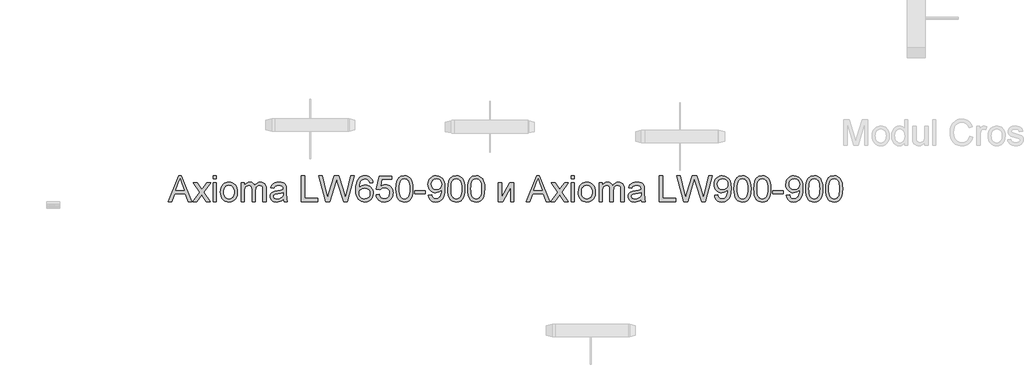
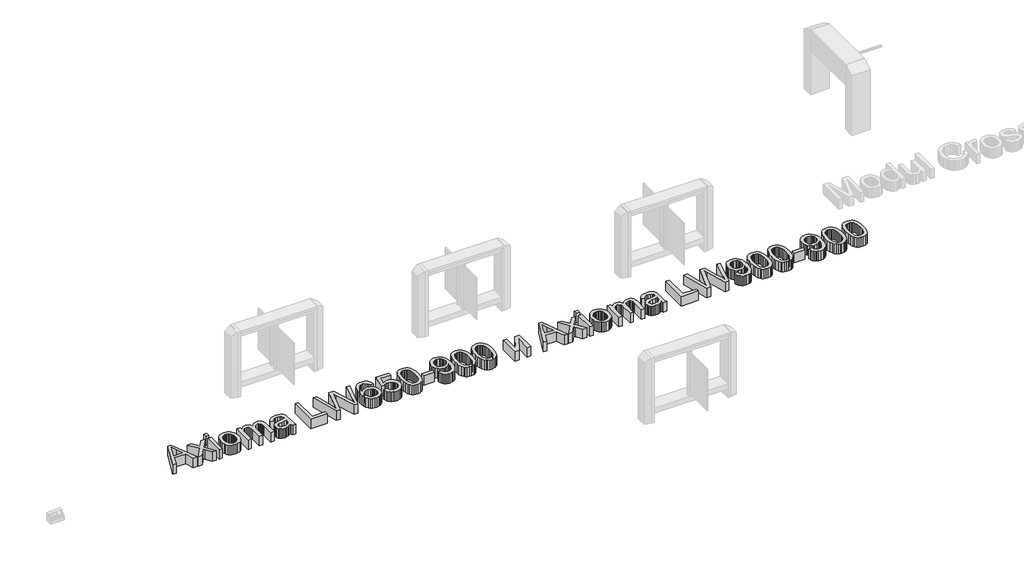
# One storey, part 4 of 6: 1 proxy.
"""IFC4 building model written with IfcOpenShell, lengths in millimetres."""

import ifcopenshell
import ifcopenshell.guid

model = None  # the IFC model being written
_history = None  # IfcOwnerHistory: only IFC2X3 demands one
_inside = {}  # id of a spatial element -> (the spatial element, [elements in it])
_under = {}  # id of a project, library or spatial element -> (it, [spatial elements below it])
_declared = {}  # id of a project -> (the project, [libraries it declares])
_typed = {}  # id of a type object -> (the type object, [elements of that type])
_made_of = {}  # id of a material, layer set ... -> (it, [elements and type objects made of it])


def new_model(schema):
    """Start an empty IFC model of exactly this schema.

    Asked for "IFC4X3", IfcOpenShell would pick the latest addendum, in which some entities
    have other attributes; the version numbers below select the first issue.
    IFC2X3 requires an IfcOwnerHistory on every rooted entity: one is made here for all.
    """
    global model, _history
    if schema == "IFC4X3":
        model = ifcopenshell.file(schema_version=(4, 3, 0, 0))
    else:
        model = ifcopenshell.file(schema=schema)
    _inside.clear()
    _under.clear()
    _declared.clear()
    _typed.clear()
    _made_of.clear()
    _history = None
    if model.schema == "IFC2X3":
        org = make("IfcOrganization", Name="unknown")
        user = make(
            "IfcPersonAndOrganization",
            ThePerson=make("IfcPerson", FamilyName="unknown"),
            TheOrganization=org,
        )
        app = make(
            "IfcApplication",
            ApplicationDeveloper=org,
            Version="unknown",
            ApplicationFullName="unknown",
            ApplicationIdentifier="unknown",
        )
        _history = make(
            "IfcOwnerHistory",
            OwningUser=user,
            OwningApplication=app,
            ChangeAction="ADDED",
            CreationDate=0,
        )
    return model


def make(cls, **values):
    """One entity of the class cls with the attributes given. An attribute that is None is left unset."""
    return model.create_entity(
        cls, **{name: value for name, value in values.items() if value is not None}
    )


def rooted(cls, **values):
    """An entity with a GlobalId (a new one), such as an element, a storey or a relation."""
    return make(cls, GlobalId=ifcopenshell.guid.new(), OwnerHistory=_history, **values)


def si_unit(unit_type, name, prefix=None):
    """IfcSIUnit, for example si_unit("LENGTHUNIT", "METRE", prefix="MILLI")."""
    return make("IfcSIUnit", UnitType=unit_type, Prefix=prefix, Name=name)


def assignment(units):
    """IfcUnitAssignment: the units of a project."""
    return None if units is None else make("IfcUnitAssignment", Units=units)


def point(xyz):
    """IfcCartesianPoint."""
    return None if xyz is None else make("IfcCartesianPoint", Coordinates=xyz)


def direction(xyz):
    """IfcDirection."""
    return None if xyz is None else make("IfcDirection", DirectionRatios=xyz)


def frame(location, z_axis=None, x_axis=None):
    """IfcAxis2Placement3D, a coordinate frame: its origin and axes. An axis left out is left unset."""
    return make(
        "IfcAxis2Placement3D",
        Location=point(location),
        Axis=direction(z_axis),
        RefDirection=direction(x_axis),
    )


def origin():
    """The frame at (0, 0, 0) with its axes left unset."""
    return frame((0.0, 0.0, 0.0))


def origin_with_axes():
    """The frame at (0, 0, 0) with the z axis (0, 0, 1) and the x axis (1, 0, 0) written out."""
    return frame((0.0, 0.0, 0.0), z_axis=(0.0, 0.0, 1.0), x_axis=(1.0, 0.0, 0.0))


def place(relative_to, where):
    """IfcLocalPlacement: puts the frame where relative to a parent placement (None: the world)."""
    return make(
        "IfcLocalPlacement", PlacementRelTo=relative_to, RelativePlacement=where
    )


def context(
    kind, dimensions, precision=None, world=None, true_north=None, identifier=None
):
    """IfcGeometricRepresentationContext, for example the 3D "Model" context."""
    return make(
        "IfcGeometricRepresentationContext",
        ContextIdentifier=identifier,
        ContextType=kind,
        CoordinateSpaceDimension=dimensions,
        Precision=precision,
        WorldCoordinateSystem=world,
        TrueNorth=true_north,
    )


def project(units=None, contexts=None):
    """IfcProject with its units and contexts."""
    return rooted(
        "IfcProject",
        Name="project",
        RepresentationContexts=contexts,
        UnitsInContext=assignment(units),
    )


def spatial(cls, under=None, at=None, **own):
    """A site, building, storey or space (cls), placed at a placement, below another one or the project."""
    s = rooted(cls, ObjectPlacement=at, **own)
    if under is not None:
        _under.setdefault(under.id(), (under, []))[1].append(s)
    return s


def polyline(points):
    """IfcPolyline through the points."""
    return make("IfcPolyline", Points=[point(p) for p in points])


def outline(outer, holes=None, kind="AREA"):
    """IfcArbitraryClosedProfileDef: a profile drawn as a closed curve; with holes, ...WithVoids."""
    if holes is None:
        return make("IfcArbitraryClosedProfileDef", ProfileType=kind, OuterCurve=outer)
    return make(
        "IfcArbitraryProfileDefWithVoids",
        ProfileType=kind,
        OuterCurve=outer,
        InnerCurves=holes,
    )


def extrude(swept, where, along, depth):
    """IfcExtrudedAreaSolid: the profile swept, set in the frame where, extruded along a direction by depth."""
    return make(
        "IfcExtrudedAreaSolid",
        SweptArea=swept,
        Position=where,
        ExtrudedDirection=direction(along),
        Depth=depth,
    )


def shape(context_of_items, identifier, shape_type, items):
    """IfcShapeRepresentation: the items that make up one representation, for example the "Body"."""
    return make(
        "IfcShapeRepresentation",
        ContextOfItems=context_of_items,
        RepresentationIdentifier=identifier,
        RepresentationType=shape_type,
        Items=items,
    )


def made_of(thing, what):
    """Note that an element or type object is made of a material, layer set ...; save() writes the relation."""
    if what is not None:
        _made_of.setdefault(what.id(), (what, []))[1].append(thing)
    return thing


def element(
    cls,
    number,
    at=None,
    inside=None,
    cuts=None,
    type_object=None,
    material=None,
    context=None,
    identifier="Body",
    shape_type=None,
    held_by="IfcProductDefinitionShape",
    body=None,
    shapes=None,
    **own,
):
    """One element of the class cls, such as IfcWall. Its Tag is "e" and its number.

    at: its placement. inside: the storey or other place that contains it. cuts: it is an
    opening in that element (IfcRelVoidsElement). A single representation is given by context,
    identifier, shape_type and body (its items); several are given by shapes. held_by: the class
    of the entity that holds the representations. save() writes the other relations.
    """
    e = rooted(cls, Tag="e%d" % number, ObjectPlacement=at, **own)
    if body is not None:
        shapes = [shape(context, identifier, shape_type, body)]
    if shapes is not None:
        e.Representation = make(held_by, Representations=shapes)
    if inside is not None:
        _inside.setdefault(inside.id(), (inside, []))[1].append(e)
    if cuts is not None:
        rooted(
            "IfcRelVoidsElement", RelatingBuildingElement=cuts, RelatedOpeningElement=e
        )
    if type_object is not None:
        _typed.setdefault(type_object.id(), (type_object, []))[1].append(e)
    return made_of(e, material)


def aggregate(whole, parts):
    """IfcRelAggregates: a whole, such as a stair, and the parts it consists of."""
    return rooted("IfcRelAggregates", RelatingObject=whole, RelatedObjects=parts)


def save(model, path):
    """Write the relations noted so far, then the file.

    IfcRelAggregates (storeys below a building ...), IfcRelContainedInSpatialStructure (elements
    in a storey), IfcRelDefinesByType, IfcRelAssociatesMaterial and IfcRelDeclares: one each for
    every whole, place, type object, material and project.
    """
    for whole, parts in _under.values():
        aggregate(whole, parts)
    for where, things in _inside.values():
        rooted(
            "IfcRelContainedInSpatialStructure",
            RelatedElements=things,
            RelatingStructure=where,
        )
    for kind, things in _typed.values():
        rooted("IfcRelDefinesByType", RelatedObjects=things, RelatingType=kind)
    for what, things in _made_of.values():
        rooted("IfcRelAssociatesMaterial", RelatedObjects=things, RelatingMaterial=what)
    for by, libraries in _declared.values():
        rooted("IfcRelDeclares", RelatingContext=by, RelatedDefinitions=libraries)
    model.write(path)


model = new_model("IFC4")

# Units and contexts
model_context = context("Model", 3, world=origin())
ifc_project = project(units=[si_unit("LENGTHUNIT", "METRE", prefix="MILLI")], contexts=[model_context])

# Site, building, storey
site = spatial("IfcSite", under=ifc_project)
building = spatial("IfcBuilding", under=site)
storey = spatial("IfcBuildingStorey", under=building, Name="Уровень 1", Elevation=0.0)

# Proxy
placement = place(None, origin())
element("IfcBuildingElementProxy", 1, Name="600 мм Arial", ObjectType="600 мм Arial", at=placement, inside=storey, context=model_context, shape_type="SweptSolid", body=[
    extrude(outline(polyline([(-6497.4571493, 3040.7914586), (-6337.0605994, 3442.6166992), (-6294.2881861, 3442.6166992), (-6133.8916362, 3040.7914586), (-6186.9647453, 3040.7914586), (-6232.9745202, 3166.3618463), (-6398.4723671, 3166.3618463), (-6444.3840401, 3040.7914586), (-6497.4571493, 3040.7914586)]), holes=[polyline([(-6380.0292164, 3216.5900013), (-6251.319569, 3216.5900013), (-6287.5191573, 3315.3785798), (-6315.6743927, 3392.3885441), (-6340.6903684, 3324.0115439), (-6380.0292164, 3216.5900013)])]), origin_with_axes(), (0.0, 0.0, 1.0), 150.0),
    extrude(outline(polyline([(-6117.9010321, 3040.7914586), (-6010.5775914, 3189.121479), (-6111.6225127, 3335.8818696), (-6051.1917636, 3335.8818696), (-6002.4351365, 3265.2485266), (-5979.6755038, 3231.8938923), (-5959.9570288, 3259.1662109), (-5904.431373, 3335.8818696), (-5844.000624, 3335.8818696), (-5950.1468423, 3189.121479), (-5847.9246986, 3040.7914586), (-5908.3554476, 3040.7914586), (-5969.8653172, 3129.9660542), (-5981.1470318, 3146.2509638), (-6057.470283, 3040.7914586), (-6117.9010321, 3040.7914586)])), origin_with_axes(), (0.0, 0.0, 1.0), 150.0),
    extrude(outline(polyline([(-5803.9750629, 3392.3885441), (-5803.9750629, 3442.6166992), (-5753.7469078, 3442.6166992), (-5753.7469078, 3392.3885441), (-5803.9750629, 3392.3885441)])), origin_with_axes(), (0.0, 0.0, 1.0), 150.0),
    extrude(outline(polyline([(-5803.9750629, 3040.7914586), (-5803.9750629, 3335.8818696), (-5753.7469078, 3335.8818696), (-5753.7469078, 3040.7914586), (-5803.9750629, 3040.7914586)])), origin_with_axes(), (0.0, 0.0, 1.0), 150.0),
    extrude(outline(polyline([(-5690.961714, 3188.3366641), (-5688.2455186, 3226.553472), (-5680.0969324, 3259.485042), (-5666.5159554, 3287.1313739), (-5647.5025876, 3309.4924678), (-5628.3604611, 3323.7846834), (-5607.2317719, 3333.9934087), (-5584.1165198, 3340.1186439), (-5559.014705, 3342.160389), (-5531.3039937, 3339.6741199), (-5506.2481642, 3332.2153124), (-5483.8472164, 3319.7839667), (-5464.1011503, 3302.3800826), (-5447.9848532, 3280.5922714), (-5436.4732124, 3255.0091444), (-5429.566228, 3225.6307014), (-5427.2638998, 3192.4569424), (-5431.3351272, 3141.7137526), (-5443.5488095, 3103.0861431), (-5463.5493273, 3074.1583555), (-5490.9810614, 3052.5146315), (-5523.5631434, 3039.0133623), (-5559.014705, 3034.5129392), (-5587.1300865, 3036.9900113), (-5612.418908, 3044.4212276), (-5634.8811695, 3056.8065881), (-5654.516871, 3074.1460928), (-5670.4614898, 3096.1454361), (-5681.8505032, 3122.5103124), (-5688.6839113, 3153.2407218), (-5690.961714, 3188.3366641)]), holes=[polyline([(-5640.7335589, 3188.434766), (-5639.280425, 3164.0717808), (-5634.9210234, 3142.9768141), (-5627.655354, 3125.1498657), (-5617.4834168, 3110.5909358), (-5605.110319, 3099.2816301), (-5591.2411678, 3091.2035546), (-5575.8759631, 3086.3567094), (-5559.014705, 3084.7410943), (-5542.239286, 3086.3659064), (-5526.935395, 3091.2403428), (-5513.103032, 3099.3644036), (-5500.742197, 3110.7380886), (-5490.5702598, 3125.4411057), (-5483.3045904, 3143.5531626), (-5478.9451888, 3165.0742593), (-5477.4920549, 3190.0043958), (-5478.9543858, 3213.5948287), (-5483.3413786, 3234.1379725), (-5490.6530333, 3251.6338271), (-5500.8893498, 3266.0823924), (-5513.2961701, 3277.3916981), (-5527.119336, 3285.4697736), (-5542.3588477, 3290.3166188), (-5559.014705, 3291.9322339), (-5575.8759631, 3290.3227502), (-5591.2411678, 3285.494299), (-5605.110319, 3277.4468804), (-5617.4834168, 3266.1804943), (-5627.655354, 3251.6644839), (-5634.9210234, 3233.8681924), (-5639.280425, 3212.7916197), (-5640.7335589, 3188.434766)])]), origin_with_axes(), (0.0, 0.0, 1.0), 150.0),
    extrude(outline(polyline([(-5370.7572254, 3040.7914586), (-5370.7572254, 3335.8818696), (-5320.5290703, 3335.8818696), (-5320.5290703, 3287.3214463), (-5305.421383, 3309.6273579), (-5285.9972137, 3327.1017527), (-5262.9187498, 3338.3957299), (-5236.8481791, 3342.160389), (-5208.913673, 3338.3221535), (-5186.5219222, 3326.8074471), (-5169.7955541, 3308.3765591), (-5158.8571961, 3283.7897791), (-5140.5489355, 3309.3269209), (-5119.6655009, 3327.5677365), (-5096.2068924, 3338.5122259), (-5070.1731098, 3342.160389), (-5050.0652931, 3340.6428758), (-5032.4161544, 3336.0903361), (-5017.2256937, 3328.5027699), (-5004.493911, 3317.8801773), (-4994.4292727, 3304.0999309), (-4987.2402454, 3287.0394034), (-4982.926829, 3266.6985948), (-4981.4890235, 3243.077505), (-4981.4890235, 3040.7914586), (-5031.7171786, 3040.7914586), (-5031.7171786, 3221.4950946), (-5032.8821383, 3246.5478585), (-5036.3770172, 3263.433642), (-5042.9253167, 3274.9973994), (-5053.2505381, 3284.0840847), (-5066.5310781, 3289.9701966), (-5081.9453337, 3291.9322339), (-5109.1563386, 3286.9045133), (-5131.3396229, 3271.8213515), (-5139.9449959, 3260.2514628), (-5146.0916909, 3245.6526789), (-5151.0090469, 3207.368426), (-5151.0090469, 3040.7914586), (-5201.237202, 3040.7914586), (-5201.237202, 3227.0869009), (-5204.1434697, 3255.487391), (-5212.862273, 3275.7454262), (-5228.2029522, 3287.885532), (-5250.9748477, 3291.9322339), (-5270.3254407, 3289.2344326), (-5288.1554547, 3281.1410287), (-5302.8707345, 3267.848226), (-5312.8771248, 3249.5522281), (-5318.6160839, 3224.1683704), (-5320.5290703, 3189.6119883), (-5320.5290703, 3040.7914586), (-5370.7572254, 3040.7914586)])), origin_with_axes(), (0.0, 0.0, 1.0), 150.0),
    extrude(outline(polyline([(-4717.7912094, 3078.4625749), (-4741.7893782, 3057.8857086), (-4766.4987856, 3044.4212276), (-4792.4835171, 3036.9900113), (-4820.3076587, 3034.5129392), (-4842.6718183, 3036.0028613), (-4862.2829944, 3040.4726275), (-4879.1411868, 3047.9222379), (-4893.2463956, 3058.3516925), (-4904.384023, 3071.0988036), (-4912.3394712, 3085.5013837), (-4917.1127401, 3101.5594328), (-4918.7038297, 3119.2729509), (-4916.300334, 3140.0950718), (-4909.0898469, 3159.0042063), (-4897.9675479, 3175.1910141), (-4883.8286165, 3187.8461548), (-4867.2126131, 3197.4110866), (-4848.6590978, 3204.3272682), (-4805.1999714, 3211.8811118), (-4753.8436449, 3219.8273629), (-4718.085515, 3229.1470401), (-4717.7912094, 3240.3306527), (-4721.2493001, 3262.746929), (-4731.6235724, 3277.4131579), (-4754.8246636, 3288.3024649), (-4787.1492282, 3291.9322339), (-4817.0702972, 3289.5164755), (-4837.9659945, 3282.2692002), (-4852.2152904, 3268.8660328), (-4862.1971552, 3247.9825982), (-4912.4253103, 3254.2611176), (-4903.706507, 3281.7296399), (-4890.6957471, 3303.3120503), (-4872.17902, 3319.8176892), (-4846.9423152, 3332.0558969), (-4816.0770158, 3339.634266), (-4780.6745051, 3342.160389), (-4746.7189969, 3339.9285716), (-4719.8022976, 3333.2331193), (-4699.5074742, 3323.1654153), (-4685.4175938, 3310.816843), (-4676.0733911, 3295.5497402), (-4670.0156009, 3276.7264448), (-4667.5630543, 3232.7768091), (-4667.5630543, 3170.2859209), (-4665.0124058, 3083.0243116), (-4655.0060155, 3040.7914586), (-4705.2341706, 3040.7914586), (-4713.2785236, 3058.2535906), (-4717.7912094, 3078.4625749)]), holes=[polyline([(-4717.7912094, 3178.918885), (-4751.5382511, 3170.555701), (-4798.8233502, 3163.5168922), (-4842.0372219, 3155.3744373), (-4853.2821482, 3149.8071565), (-4861.608544, 3142.1306855), (-4866.758892, 3132.9336356), (-4868.4756746, 3122.804618), (-4864.735541, 3107.868609), (-4853.5151401, 3095.6304013), (-4835.0597267, 3087.463421), (-4809.6145554, 3084.7410943), (-4782.6365424, 3087.7454639), (-4758.7977891, 3096.7585728), (-4739.4717216, 3110.0391128), (-4726.0317661, 3125.8457759), (-4720.0720778, 3142.1306855), (-4718.085515, 3164.6941145), (-4717.7912094, 3178.918885)])]), origin_with_axes(), (0.0, 0.0, 1.0), 150.0),
    extrude(outline(polyline([(-4435.2578371, 3040.7914586), (-4435.2578371, 3442.6166992), (-4385.029682, 3442.6166992), (-4385.029682, 3091.0196136), (-4184.1170617, 3091.0196136), (-4184.1170617, 3040.7914586), (-4435.2578371, 3040.7914586)])), origin_with_axes(), (0.0, 0.0, 1.0), 150.0),
    extrude(outline(polyline([(-4055.7017199, 3040.7914586), (-4165.2815036, 3442.6166992), (-4113.4837186, 3442.6166992), (-4049.9137099, 3178.5264776), (-4030.2933368, 3097.0038274), (-4009.2995376, 3169.1086985), (-3929.6408229, 3442.6166992), (-3854.9853034, 3442.6166992), (-3797.1052028, 3244.3528292), (-3772.3099563, 3170.7764302), (-3754.0384839, 3097.0038274), (-3735.006722, 3176.1720328), (-3670.848102, 3442.6166992), (-3619.0503171, 3442.6166992), (-3728.7282026, 3040.7914586), (-3782.389923, 3040.7914586), (-3878.7259548, 3350.7933532), (-3892.1659103, 3394.0562758), (-3907.2735976, 3341.9641853), (-3995.0747671, 3040.7914586), (-4055.7017199, 3040.7914586)])), origin_with_axes(), (0.0, 0.0, 1.0), 150.0),
    extrude(outline(polyline([(-3330.2384254, 3335.8818696), (-3380.4665805, 3329.6033502), (-3388.5599844, 3354.4966986), (-3399.4983424, 3371.4928468), (-3422.2825006, 3387.1646198), (-3449.8245993, 3392.3885441), (-3473.1728433, 3389.3473863), (-3495.1476612, 3380.2239128), (-3514.0200075, 3361.0082099), (-3529.4342631, 3334.5574944), (-3539.8453236, 3297.1438955), (-3543.7080845, 3245.0395423), (-3523.5604139, 3268.5472018), (-3499.4150923, 3285.1141543), (-3472.6210203, 3294.9366036), (-3444.5270986, 3298.2107533), (-3420.3940397, 3295.9728045), (-3398.1249163, 3289.2589581), (-3377.7197283, 3278.0692141), (-3359.1784757, 3262.4035725), (-3343.7703515, 3243.1940009), (-3332.7645485, 3221.3724673), (-3326.1610667, 3196.9389714), (-3323.9599061, 3169.8935134), (-3328.1047099, 3133.926917), (-3340.5391213, 3100.5845455), (-3360.2330708, 3072.3066828), (-3386.1564887, 3051.5336128), (-3417.1321527, 3038.7681076), (-3451.9828404, 3034.5129392), (-3481.9253691, 3037.3333678), (-3508.9677614, 3045.7946537), (-3533.1100174, 3059.8967968), (-3554.3521369, 3079.6397973), (-3571.6701818, 3105.8575208), (-3584.0402139, 3139.3838333), (-3591.4622332, 3180.2187347), (-3593.9362396, 3228.3622252), (-3591.1893874, 3282.3366452), (-3582.9488307, 3328.4016024), (-3569.2145695, 3366.5570967), (-3549.9866039, 3396.803128), (-3529.1460889, 3416.8465654), (-3504.9823732, 3431.1633064), (-3477.4954568, 3439.753351), (-3446.6853397, 3442.6166992), (-3423.5516935, 3440.8447342), (-3402.6130766, 3435.5288394), (-3383.869489, 3426.6690147), (-3367.3209306, 3414.2652601), (-3353.4149911, 3398.7345085), (-3342.5992605, 3380.4936929), (-3334.8737386, 3359.5428133), (-3330.2384254, 3335.8818696)]), holes=[polyline([(-3543.7080845, 3170.6783283), (-3540.8018168, 3148.4214676), (-3532.0830135, 3127.170151), (-3518.544956, 3108.8986786), (-3501.1809259, 3095.5813504), (-3480.2239149, 3087.4511583), (-3455.906915, 3084.7410943), (-3422.7607472, 3090.357426), (-3408.8456108, 3097.3778408), (-3396.7024392, 3107.2064214), (-3386.8523988, 3119.4446291), (-3379.8166557, 3133.6939251), (-3374.1880611, 3168.2257817), (-3379.7430793, 3201.3719495), (-3386.6868519, 3214.9927803), (-3396.4081336, 3226.6454425), (-3408.5880934, 3235.9804482), (-3422.9079, 3242.6483093), (-3457.9670542, 3247.9825982), (-3491.064171, 3242.6483093), (-3518.7411598, 3226.6454425), (-3529.6641894, 3215.1460645), (-3537.4663533, 3201.9850861), (-3542.1476517, 3187.1625074), (-3543.7080845, 3170.6783283)])]), origin_with_axes(), (0.0, 0.0, 1.0), 150.0),
    extrude(outline(polyline([(-3280.0102704, 3147.5262881), (-3229.7821153, 3153.8048075), (-3220.56054, 3123.6507466), (-3204.471834, 3102.0560735), (-3181.5895739, 3089.0698391), (-3151.9873361, 3084.7410943), (-3132.8574723, 3086.2463448), (-3115.9839515, 3090.7620962), (-3101.3667735, 3098.2883487), (-3089.0059385, 3108.8251022), (-3079.1773578, 3121.8511905), (-3072.1569431, 3136.8454475), (-3066.5406113, 3172.7384675), (-3071.8013238, 3206.5345601), (-3078.3772145, 3220.4527623), (-3087.5834614, 3232.3844017), (-3099.4507215, 3241.9554649), (-3114.0096514, 3248.7919386), (-3151.2025211, 3254.2611176), (-3175.5685719, 3252.0783511), (-3195.2993096, 3245.5300516), (-3211.0569217, 3235.4991359), (-3223.5035959, 3222.8685207), (-3273.731751, 3229.1470401), (-3229.7821153, 3436.3381798), (-3035.1480144, 3436.3381798), (-3035.1480144, 3386.1100247), (-3189.167943, 3386.1100247), (-3210.6522515, 3275.4511206), (-3192.9264707, 3288.1553121), (-3174.7714943, 3297.2297347), (-3156.1873222, 3302.6743882), (-3137.1739544, 3304.4892727), (-3112.7128674, 3302.2390612), (-3090.2444745, 3295.4884266), (-3069.7687758, 3284.2373689), (-3051.2857712, 3268.4858881), (-3035.9849459, 3249.1966088), (-3025.055785, 3227.3321556), (-3018.4982884, 3202.8925284), (-3016.3124562, 3175.8777272), (-3018.2806249, 3149.8562074), (-3024.1851309, 3125.6495721), (-3034.0259743, 3103.2578213), (-3047.803155, 3082.6809551), (-3068.6743269, 3061.6074481), (-3093.028115, 3046.5549432), (-3120.8645193, 3037.5234402), (-3152.1835398, 3034.5129392), (-3178.103892, 3036.4473853), (-3201.5165153, 3042.2507238), (-3222.4214097, 3051.9229546), (-3240.8185752, 3065.4640777), (-3256.1255318, 3082.1996428), (-3267.7597999, 3101.4551996), (-3275.7213794, 3123.230748), (-3280.0102704, 3147.5262881)])), origin_with_axes(), (0.0, 0.0, 1.0), 150.0),
    extrude(outline(polyline([(-2972.3628205, 3238.4667173), (-2968.6717379, 3302.7847528), (-2957.5984898, 3354.0797657), (-2939.253441, 3393.1365708), (-2927.395378, 3408.3699511), (-2913.746956, 3420.7399832), (-2898.2621897, 3430.3110464), (-2880.8950938, 3437.1475202), (-2840.5139135, 3442.6166992), (-2809.5627749, 3439.3793376), (-2781.848998, 3429.6672529), (-2758.6724323, 3413.8605899), (-2741.3329276, 3392.3394932), (-2728.2363285, 3365.2879038), (-2717.7884799, 3332.8897627), (-2710.9458748, 3291.7482929), (-2708.6650064, 3238.4667173), (-2712.3193009, 3174.5165638), (-2723.2821843, 3123.3441783), (-2741.5168686, 3084.2505849), (-2753.3473404, 3068.9712194), (-2766.9865654, 3056.536808), (-2782.4897258, 3046.9013654), (-2799.9120039, 3040.0189064), (-2840.5139135, 3034.5129392), (-2868.1786395, 3036.9041721), (-2892.7041059, 3044.0778711), (-2914.0903125, 3056.0340359), (-2932.3372595, 3072.7726667), (-2949.8484424, 3103.0309608), (-2962.3564303, 3140.7327339), (-2969.861223, 3185.8779861), (-2972.3628205, 3238.4667173)]), holes=[polyline([(-2922.1346655, 3238.5648192), (-2920.6631375, 3194.900292), (-2916.2485535, 3159.5560293), (-2908.8909136, 3132.5320311), (-2898.5902178, 3113.8282973), (-2886.1312809, 3101.102646), (-2872.2989179, 3092.012895), (-2857.0931287, 3086.5590444), (-2840.5139135, 3084.7410943), (-2823.9346982, 3086.5651758), (-2808.7289091, 3092.0374205), (-2794.8965461, 3101.1578283), (-2782.4376092, 3113.9263992), (-2772.1369133, 3132.6607898), (-2764.7792734, 3159.6786567), (-2760.3646895, 3194.9799998), (-2758.8931615, 3238.5648192), (-2760.3156385, 3281.0735837), (-2764.5830697, 3315.7955127), (-2771.6954549, 3342.7306061), (-2781.6527942, 3361.878864), (-2793.9032647, 3375.226849), (-2807.8950432, 3384.7611241), (-2823.6281299, 3390.4816891), (-2841.1025247, 3392.3885441), (-2857.5959008, 3390.7085496), (-2872.5441725, 3385.6685663), (-2885.9473399, 3377.2685941), (-2897.8054029, 3365.508633), (-2908.4494552, 3344.6619866), (-2916.0523498, 3316.5558021), (-2920.6140866, 3281.1900797), (-2922.1346655, 3238.5648192)])]), origin_with_axes(), (0.0, 0.0, 1.0), 150.0),
    extrude(outline(polyline([(-2677.2724095, 3160.0833269), (-2677.2724095, 3210.3114819), (-2520.3094249, 3210.3114819), (-2520.3094249, 3160.0833269), (-2677.2724095, 3160.0833269)])), origin_with_axes(), (0.0, 0.0, 1.0), 150.0),
    extrude(outline(polyline([(-2470.0812698, 3141.2477687), (-2419.8531147, 3147.5262881), (-2411.2692015, 3119.0154335), (-2397.2896857, 3099.6035269), (-2378.2579238, 3088.4567024), (-2354.5172724, 3084.7410943), (-2333.2169049, 3087.1323272), (-2313.8540492, 3094.3060261), (-2297.7653433, 3105.4773761), (-2286.287425, 3119.8615621), (-2269.8553626, 3163.5168922), (-2264.410709, 3191.9173822), (-2262.5958245, 3221.7894002), (-2262.8901301, 3231.5995867), (-2280.2909485, 3210.3605329), (-2303.062844, 3193.536063), (-2329.5626104, 3182.5731795), (-2358.1470414, 3178.918885), (-2382.0072545, 3181.1507025), (-2403.9483498, 3187.8461548), (-2423.9703274, 3199.005242), (-2442.0731872, 3214.627964), (-2457.0735756, 3233.8988492), (-2467.7881387, 3256.0024257), (-2474.2168766, 3280.9386937), (-2476.3597892, 3308.7076529), (-2474.1126433, 3337.4024485), (-2467.3712058, 3363.1541882), (-2456.1354765, 3385.9628719), (-2440.4054555, 3405.8284996), (-2421.2909202, 3421.9233369), (-2399.9016478, 3433.4196493), (-2376.2376385, 3440.3174367), (-2350.2988922, 3442.6166992), (-2312.8362423, 3437.3682494), (-2278.7335814, 3421.6229), (-2250.210464, 3396.1654659), (-2229.4864449, 3361.7807621), (-2216.8680925, 3314.2504083), (-2212.661975, 3249.3560244), (-2216.8558298, 3180.5498285), (-2229.437394, 3127.3663548), (-2250.2963031, 3087.4021074), (-2263.7883753, 3071.4758826), (-2279.3221926, 3058.2535906), (-2296.5850552, 3047.8670556), (-2315.2642635, 3040.448102), (-2356.8717171, 3034.5129392), (-2379.4290148, 3036.2634443), (-2399.8158087, 3041.5149598), (-2418.0320988, 3050.2674856), (-2434.0778852, 3062.5210217), (-2447.5484976, 3077.9444744), (-2458.0392658, 3096.2067498), (-2465.5501899, 3117.3078479), (-2470.0812698, 3141.2477687)]), holes=[polyline([(-2262.8901301, 3309.8848753), (-2268.3102582, 3343.9262226), (-2275.0854182, 3358.0038403), (-2284.5706424, 3370.1194206), (-2296.2999466, 3379.8621622), (-2309.8073472, 3386.8212632), (-2342.1564373, 3392.3885441), (-2359.7657222, 3390.889425), (-2375.7072753, 3386.3920676), (-2389.9810967, 3378.8964719), (-2402.5871864, 3368.402638), (-2412.8878823, 3355.5237025), (-2420.2455222, 3340.872802), (-2424.6601061, 3324.4499366), (-2426.1316341, 3306.2551063), (-2420.5643532, 3275.2181286), (-2413.6052522, 3262.1000698), (-2403.8625107, 3250.5822977), (-2391.7407989, 3241.2043725), (-2377.6447871, 3234.5058545), (-2343.5298635, 3229.1470401), (-2311.4382907, 3234.5058545), (-2285.6007119, 3250.5822977), (-2275.6648324, 3262.3269304), (-2268.5677756, 3276.1255709), (-2262.8901301, 3309.8848753)])]), origin_with_axes(), (0.0, 0.0, 1.0), 150.0),
    extrude(outline(polyline([(-2168.7123393, 3238.4667173), (-2165.0212567, 3302.7847528), (-2153.9480086, 3354.0797657), (-2135.6029598, 3393.1365708), (-2123.7448968, 3408.3699511), (-2110.0964748, 3420.7399832), (-2094.6117085, 3430.3110464), (-2077.2446126, 3437.1475202), (-2036.8634323, 3442.6166992), (-2005.9122937, 3439.3793376), (-1978.1985168, 3429.6672529), (-1955.0219511, 3413.8605899), (-1937.6824464, 3392.3394932), (-1924.5858473, 3365.2879038), (-1914.1379987, 3332.8897627), (-1907.2953936, 3291.7482929), (-1905.0145252, 3238.4667173), (-1908.6688197, 3174.5165638), (-1919.6317031, 3123.3441783), (-1937.8663874, 3084.2505849), (-1949.6968592, 3068.9712194), (-1963.3360842, 3056.536808), (-1978.8392446, 3046.9013654), (-1996.2615227, 3040.0189064), (-2036.8634323, 3034.5129392), (-2064.5281583, 3036.9041721), (-2089.0536247, 3044.0778711), (-2110.4398313, 3056.0340359), (-2128.6867783, 3072.7726667), (-2146.1979612, 3103.0309608), (-2158.7059491, 3140.7327339), (-2166.2107418, 3185.8779861), (-2168.7123393, 3238.4667173)]), holes=[polyline([(-2118.4841843, 3238.5648192), (-2117.0126563, 3194.900292), (-2112.5980723, 3159.5560293), (-2105.2404324, 3132.5320311), (-2094.9397366, 3113.8282973), (-2082.4807997, 3101.102646), (-2068.6484367, 3092.012895), (-2053.4426475, 3086.5590444), (-2036.8634323, 3084.7410943), (-2020.284217, 3086.5651758), (-2005.0784279, 3092.0374205), (-1991.2460649, 3101.1578283), (-1978.787128, 3113.9263992), (-1968.4864321, 3132.6607898), (-1961.1287922, 3159.6786567), (-1956.7142083, 3194.9799998), (-1955.2426803, 3238.5648192), (-1956.6651573, 3281.0735837), (-1960.9325885, 3315.7955127), (-1968.0449737, 3342.7306061), (-1978.002313, 3361.878864), (-1990.2527835, 3375.226849), (-2004.244562, 3384.7611241), (-2019.9776487, 3390.4816891), (-2037.4520435, 3392.3885441), (-2053.9454196, 3390.7085496), (-2068.8936913, 3385.6685663), (-2082.2968587, 3377.2685941), (-2094.1549217, 3365.508633), (-2104.798974, 3344.6619866), (-2112.4018686, 3316.5558021), (-2116.9636054, 3281.1900797), (-2118.4841843, 3238.5648192)])]), origin_with_axes(), (0.0, 0.0, 1.0), 150.0),
    extrude(outline(polyline([(-1861.0648895, 3238.4667173), (-1857.3738068, 3302.7847528), (-1846.3005588, 3354.0797657), (-1827.9555099, 3393.1365708), (-1816.097447, 3408.3699511), (-1802.4490249, 3420.7399832), (-1786.9642586, 3430.3110464), (-1769.5971628, 3437.1475202), (-1729.2159824, 3442.6166992), (-1698.2648439, 3439.3793376), (-1670.5510669, 3429.6672529), (-1647.3745012, 3413.8605899), (-1630.0349965, 3392.3394932), (-1616.9383975, 3365.2879038), (-1606.4905488, 3332.8897627), (-1599.6479437, 3291.7482929), (-1597.3670754, 3238.4667173), (-1601.0213699, 3174.5165638), (-1611.9842533, 3123.3441783), (-1630.2189375, 3084.2505849), (-1642.0494094, 3068.9712194), (-1655.6886343, 3056.536808), (-1671.1917947, 3046.9013654), (-1688.6140729, 3040.0189064), (-1729.2159824, 3034.5129392), (-1756.8807085, 3036.9041721), (-1781.4061748, 3044.0778711), (-1802.7923815, 3056.0340359), (-1821.0393284, 3072.7726667), (-1838.5505114, 3103.0309608), (-1851.0584992, 3140.7327339), (-1858.5632919, 3185.8779861), (-1861.0648895, 3238.4667173)]), holes=[polyline([(-1810.8367344, 3238.5648192), (-1809.3652065, 3194.900292), (-1804.9506225, 3159.5560293), (-1797.5929826, 3132.5320311), (-1787.2922867, 3113.8282973), (-1774.8333498, 3101.102646), (-1761.0009868, 3092.012895), (-1745.7951977, 3086.5590444), (-1729.2159824, 3084.7410943), (-1712.6367672, 3086.5651758), (-1697.4309781, 3092.0374205), (-1683.598615, 3101.1578283), (-1671.1396781, 3113.9263992), (-1660.8389823, 3132.6607898), (-1653.4813424, 3159.6786567), (-1649.0667584, 3194.9799998), (-1647.5952304, 3238.5648192), (-1649.0177075, 3281.0735837), (-1653.2851386, 3315.7955127), (-1660.3975239, 3342.7306061), (-1670.3548632, 3361.878864), (-1682.6053336, 3375.226849), (-1696.5971122, 3384.7611241), (-1712.3301989, 3390.4816891), (-1729.8045936, 3392.3885441), (-1746.2979697, 3390.7085496), (-1761.2462415, 3385.6685663), (-1774.6494088, 3377.2685941), (-1786.5074718, 3365.508633), (-1797.1515242, 3344.6619866), (-1804.7544188, 3316.5558021), (-1809.3161555, 3281.1900797), (-1810.8367344, 3238.5648192)])]), origin_with_axes(), (0.0, 0.0, 1.0), 150.0),
    extrude(outline(polyline([(-1383.8974163, 3335.8818696), (-1333.6692612, 3335.8818696), (-1333.6692612, 3110.8361904), (-1210.2571146, 3335.8818696), (-1145.3136797, 3335.8818696), (-1145.3136797, 3040.7914586), (-1195.5418348, 3040.7914586), (-1195.5418348, 3264.4637116), (-1318.1691665, 3040.7914586), (-1383.8974163, 3040.7914586), (-1383.8974163, 3335.8818696)])), origin_with_axes(), (0.0, 0.0, 1.0), 150.0),
    extrude(outline(polyline([(-953.5245329, 3040.7914586), (-793.127983, 3442.6166992), (-750.3555697, 3442.6166992), (-589.9590198, 3040.7914586), (-643.0321289, 3040.7914586), (-689.0419038, 3166.3618463), (-854.5397507, 3166.3618463), (-900.4514237, 3040.7914586), (-953.5245329, 3040.7914586)]), holes=[polyline([(-836.0966, 3216.5900013), (-707.3869526, 3216.5900013), (-743.586541, 3315.3785798), (-771.7417763, 3392.3885441), (-796.757752, 3324.0115439), (-836.0966, 3216.5900013)])]), origin_with_axes(), (0.0, 0.0, 1.0), 150.0),
    extrude(outline(polyline([(-573.9684157, 3040.7914586), (-466.644975, 3189.121479), (-567.6898963, 3335.8818696), (-507.2591473, 3335.8818696), (-458.5025202, 3265.2485266), (-435.7428874, 3231.8938923), (-416.0244125, 3259.1662109), (-360.4987567, 3335.8818696), (-300.0680076, 3335.8818696), (-406.2142259, 3189.121479), (-303.9920822, 3040.7914586), (-364.4228313, 3040.7914586), (-425.9327009, 3129.9660542), (-437.2144154, 3146.2509638), (-513.5376666, 3040.7914586), (-573.9684157, 3040.7914586)])), origin_with_axes(), (0.0, 0.0, 1.0), 150.0),
    extrude(outline(polyline([(-260.0424465, 3392.3885441), (-260.0424465, 3442.6166992), (-209.8142914, 3442.6166992), (-209.8142914, 3392.3885441), (-260.0424465, 3392.3885441)])), origin_with_axes(), (0.0, 0.0, 1.0), 150.0),
    extrude(outline(polyline([(-260.0424465, 3040.7914586), (-260.0424465, 3335.8818696), (-209.8142914, 3335.8818696), (-209.8142914, 3040.7914586), (-260.0424465, 3040.7914586)])), origin_with_axes(), (0.0, 0.0, 1.0), 150.0),
    extrude(outline(polyline([(-147.0290976, 3188.3366641), (-144.3129022, 3226.553472), (-136.164316, 3259.485042), (-122.583339, 3287.1313739), (-103.5699712, 3309.4924678), (-84.4278447, 3323.7846834), (-63.2991555, 3333.9934087), (-40.1839034, 3340.1186439), (-15.0820886, 3342.160389), (12.6286226, 3339.6741199), (37.6844522, 3332.2153124), (60.0854, 3319.7839667), (79.8314661, 3302.3800826), (95.9477632, 3280.5922714), (107.4594039, 3255.0091444), (114.3663884, 3225.6307014), (116.6687166, 3192.4569424), (112.5974891, 3141.7137526), (100.3838069, 3103.0861431), (80.3832891, 3074.1583555), (52.951555, 3052.5146315), (20.369473, 3039.0133623), (-15.0820886, 3034.5129392), (-43.1974701, 3036.9900113), (-68.4862916, 3044.4212276), (-90.9485531, 3056.8065881), (-110.5842546, 3074.1460928), (-126.5288734, 3096.1454361), (-137.9178868, 3122.5103124), (-144.7512949, 3153.2407218), (-147.0290976, 3188.3366641)]), holes=[polyline([(-96.8009425, 3188.434766), (-95.3478086, 3164.0717808), (-90.988407, 3142.9768141), (-83.7227376, 3125.1498657), (-73.5508004, 3110.5909358), (-61.1777026, 3099.2816301), (-47.3085514, 3091.2035546), (-31.9433468, 3086.3567094), (-15.0820886, 3084.7410943), (1.6933303, 3086.3659064), (16.9972213, 3091.2403428), (30.8295844, 3099.3644036), (43.1904194, 3110.7380886), (53.3623566, 3125.4411057), (60.628026, 3143.5531626), (64.9874276, 3165.0742593), (66.4405615, 3190.0043958), (64.9782306, 3213.5948287), (60.5912378, 3234.1379725), (53.2795831, 3251.6338271), (43.0432666, 3266.0823924), (30.6364463, 3277.3916981), (16.8132803, 3285.4697736), (1.5737687, 3290.3166188), (-15.0820886, 3291.9322339), (-31.9433468, 3290.3227502), (-47.3085514, 3285.494299), (-61.1777026, 3277.4468804), (-73.5508004, 3266.1804943), (-83.7227376, 3251.6644839), (-90.988407, 3233.8681924), (-95.3478086, 3212.7916197), (-96.8009425, 3188.434766)])]), origin_with_axes(), (0.0, 0.0, 1.0), 150.0),
    extrude(outline(polyline([(173.175391, 3040.7914586), (173.175391, 3335.8818696), (223.4035461, 3335.8818696), (223.4035461, 3287.3214463), (238.5112334, 3309.6273579), (257.9354027, 3327.1017527), (281.0138665, 3338.3957299), (307.0844373, 3342.160389), (335.0189434, 3338.3221535), (357.4106942, 3326.8074471), (374.1370623, 3308.3765591), (385.0754202, 3283.7897791), (403.3836809, 3309.3269209), (424.2671155, 3327.5677365), (447.725724, 3338.5122259), (473.7595065, 3342.160389), (493.8673233, 3340.6428758), (511.516462, 3336.0903361), (526.7069227, 3328.5027699), (539.4387054, 3317.8801773), (549.5033437, 3304.0999309), (556.692371, 3287.0394034), (561.0057874, 3266.6985948), (562.4435928, 3243.077505), (562.4435928, 3040.7914586), (512.2154378, 3040.7914586), (512.2154378, 3221.4950946), (511.0504781, 3246.5478585), (507.5555992, 3263.433642), (501.0072997, 3274.9973994), (490.6820783, 3284.0840847), (477.4015383, 3289.9701966), (461.9872827, 3291.9322339), (434.7762778, 3286.9045133), (412.5929935, 3271.8213515), (403.9876205, 3260.2514628), (397.8409255, 3245.6526789), (392.9235695, 3207.368426), (392.9235695, 3040.7914586), (342.6954144, 3040.7914586), (342.6954144, 3227.0869009), (339.7891466, 3255.487391), (331.0703433, 3275.7454262), (315.7296642, 3287.885532), (292.9577686, 3291.9322339), (273.6071757, 3289.2344326), (255.7771617, 3281.1410287), (241.0618819, 3267.848226), (231.0554916, 3249.5522281), (225.3165325, 3224.1683704), (223.4035461, 3189.6119883), (223.4035461, 3040.7914586), (173.175391, 3040.7914586)])), origin_with_axes(), (0.0, 0.0, 1.0), 150.0),
    extrude(outline(polyline([(826.141407, 3078.4625749), (802.1432382, 3057.8857086), (777.4338308, 3044.4212276), (751.4490992, 3036.9900113), (723.6249577, 3034.5129392), (701.260798, 3036.0028613), (681.649622, 3040.4726275), (664.7914296, 3047.9222379), (650.6862208, 3058.3516925), (639.5485934, 3071.0988036), (631.5931452, 3085.5013837), (626.8198763, 3101.5594328), (625.2287867, 3119.2729509), (627.6322824, 3140.0950718), (634.8427695, 3159.0042063), (645.9650685, 3175.1910141), (660.1039998, 3187.8461548), (676.7200033, 3197.4110866), (695.2735186, 3204.3272682), (738.7326449, 3211.8811118), (790.0889715, 3219.8273629), (825.8471014, 3229.1470401), (826.141407, 3240.3306527), (822.6833162, 3262.746929), (812.309044, 3277.4131579), (789.1079528, 3288.3024649), (756.7833882, 3291.9322339), (726.8623192, 3289.5164755), (705.9666219, 3282.2692002), (691.717326, 3268.8660328), (681.7354612, 3247.9825982), (631.5073061, 3254.2611176), (640.2261094, 3281.7296399), (653.2368693, 3303.3120503), (671.7535963, 3319.8176892), (696.9903012, 3332.0558969), (727.8556006, 3339.634266), (763.2581113, 3342.160389), (797.2136194, 3339.9285716), (824.1303188, 3333.2331193), (844.4251422, 3323.1654153), (858.5150226, 3310.816843), (867.8592252, 3295.5497402), (873.9170154, 3276.7264448), (876.3695621, 3232.7768091), (876.3695621, 3170.2859209), (878.9202106, 3083.0243116), (888.9266008, 3040.7914586), (838.6984458, 3040.7914586), (830.6540928, 3058.2535906), (826.141407, 3078.4625749)]), holes=[polyline([(826.141407, 3178.918885), (792.3943653, 3170.555701), (745.1092662, 3163.5168922), (701.8953945, 3155.3744373), (690.6504682, 3149.8071565), (682.3240723, 3142.1306855), (677.1737244, 3132.9336356), (675.4569418, 3122.804618), (679.1970754, 3107.868609), (690.4174762, 3095.6304013), (708.8728897, 3087.463421), (734.318061, 3084.7410943), (761.296074, 3087.7454639), (785.1348273, 3096.7585728), (804.4608947, 3110.0391128), (817.9008503, 3125.8457759), (823.8605386, 3142.1306855), (825.8471014, 3164.6941145), (826.141407, 3178.918885)])]), origin_with_axes(), (0.0, 0.0, 1.0), 150.0),
    extrude(outline(polyline([(1108.6747793, 3040.7914586), (1108.6747793, 3442.6166992), (1158.9029344, 3442.6166992), (1158.9029344, 3091.0196136), (1359.8155547, 3091.0196136), (1359.8155547, 3040.7914586), (1108.6747793, 3040.7914586)])), origin_with_axes(), (0.0, 0.0, 1.0), 150.0),
    extrude(outline(polyline([(1488.2308964, 3040.7914586), (1378.6511128, 3442.6166992), (1430.4488977, 3442.6166992), (1494.0189065, 3178.5264776), (1513.6392796, 3097.0038274), (1534.6330788, 3169.1086985), (1614.2917935, 3442.6166992), (1688.947313, 3442.6166992), (1746.8274136, 3244.3528292), (1771.6226601, 3170.7764302), (1789.8941325, 3097.0038274), (1808.9258944, 3176.1720328), (1873.0845143, 3442.6166992), (1924.8822993, 3442.6166992), (1815.2044138, 3040.7914586), (1761.5426934, 3040.7914586), (1665.2066616, 3350.7933532), (1651.766706, 3394.0562758), (1636.6590188, 3341.9641853), (1548.8578492, 3040.7914586), (1488.2308964, 3040.7914586)])), origin_with_axes(), (0.0, 0.0, 1.0), 150.0),
    extrude(outline(polyline([(1962.5534156, 3141.2477687), (2012.7815706, 3147.5262881), (2021.3654839, 3119.0154335), (2035.3449997, 3099.6035269), (2054.3767616, 3088.4567024), (2078.117413, 3084.7410943), (2099.4177805, 3087.1323272), (2118.7806362, 3094.3060261), (2134.8693421, 3105.4773761), (2146.3472603, 3119.8615621), (2162.7793228, 3163.5168922), (2168.2239763, 3191.9173822), (2170.0388608, 3221.7894002), (2169.7445552, 3231.5995867), (2152.3437369, 3210.3605329), (2129.5718414, 3193.536063), (2103.072075, 3182.5731795), (2074.487644, 3178.918885), (2050.6274309, 3181.1507025), (2028.6863356, 3187.8461548), (2008.664358, 3199.005242), (1990.5614981, 3214.627964), (1975.5611098, 3233.8988492), (1964.8465467, 3256.0024257), (1958.4178088, 3280.9386937), (1956.2748962, 3308.7076529), (1958.522042, 3337.4024485), (1965.2634796, 3363.1541882), (1976.4992089, 3385.9628719), (1992.2292298, 3405.8284996), (2011.3437652, 3421.9233369), (2032.7330375, 3433.4196493), (2056.3970468, 3440.3174367), (2082.3357932, 3442.6166992), (2119.798443, 3437.3682494), (2153.901104, 3421.6229), (2182.4242213, 3396.1654659), (2203.1482404, 3361.7807621), (2215.7665928, 3314.2504083), (2219.9727103, 3249.3560244), (2215.7788556, 3180.5498285), (2203.1972913, 3127.3663548), (2182.3383822, 3087.4021074), (2168.84631, 3071.4758826), (2153.3124928, 3058.2535906), (2136.0496302, 3047.8670556), (2117.3704219, 3040.448102), (2075.7629682, 3034.5129392), (2053.2056705, 3036.2634443), (2032.8188766, 3041.5149598), (2014.6025865, 3050.2674856), (1998.5568002, 3062.5210217), (1985.0861878, 3077.9444744), (1974.5954195, 3096.2067498), (1967.0844955, 3117.3078479), (1962.5534156, 3141.2477687)]), holes=[polyline([(2169.7445552, 3309.8848753), (2164.3244272, 3343.9262226), (2157.5492671, 3358.0038403), (2148.064043, 3370.1194206), (2136.3347387, 3379.8621622), (2122.8273381, 3386.8212632), (2090.478248, 3392.3885441), (2072.8689632, 3390.889425), (2056.9274101, 3386.3920676), (2042.6535886, 3378.8964719), (2030.0474989, 3368.402638), (2019.7468031, 3355.5237025), (2012.3891632, 3340.872802), (2007.9745792, 3324.4499366), (2006.5030512, 3306.2551063), (2012.0703321, 3275.2181286), (2019.0294332, 3262.1000698), (2028.7721747, 3250.5822977), (2040.8938864, 3241.2043725), (2054.9898982, 3234.5058545), (2089.1048219, 3229.1470401), (2121.1963946, 3234.5058545), (2147.0339734, 3250.5822977), (2156.969853, 3262.3269304), (2164.0669098, 3276.1255709), (2169.7445552, 3309.8848753)])]), origin_with_axes(), (0.0, 0.0, 1.0), 150.0),
    extrude(outline(polyline([(2263.922346, 3238.4667173), (2267.6134287, 3302.7847528), (2278.6866767, 3354.0797657), (2297.0317256, 3393.1365708), (2308.8897886, 3408.3699511), (2322.5382106, 3420.7399832), (2338.0229769, 3430.3110464), (2355.3900727, 3437.1475202), (2395.7712531, 3442.6166992), (2426.7223916, 3439.3793376), (2454.4361686, 3429.6672529), (2477.6127343, 3413.8605899), (2494.952239, 3392.3394932), (2508.048838, 3365.2879038), (2518.4966867, 3332.8897627), (2525.3392918, 3291.7482929), (2527.6201602, 3238.4667173), (2523.9658657, 3174.5165638), (2513.0029822, 3123.3441783), (2494.768298, 3084.2505849), (2482.9378262, 3068.9712194), (2469.2986012, 3056.536808), (2453.7954408, 3046.9013654), (2436.3731626, 3040.0189064), (2395.7712531, 3034.5129392), (2368.106527, 3036.9041721), (2343.5810607, 3044.0778711), (2322.194854, 3056.0340359), (2303.9479071, 3072.7726667), (2286.4367241, 3103.0309608), (2273.9287363, 3140.7327339), (2266.4239436, 3185.8779861), (2263.922346, 3238.4667173)]), holes=[polyline([(2314.1505011, 3238.5648192), (2315.6220291, 3194.900292), (2320.036613, 3159.5560293), (2327.3942529, 3132.5320311), (2337.6949488, 3113.8282973), (2350.1538857, 3101.102646), (2363.9862487, 3092.012895), (2379.1920378, 3086.5590444), (2395.7712531, 3084.7410943), (2412.3504683, 3086.5651758), (2427.5562575, 3092.0374205), (2441.3886205, 3101.1578283), (2453.8475574, 3113.9263992), (2464.1482532, 3132.6607898), (2471.5058932, 3159.6786567), (2475.9204771, 3194.9799998), (2477.3920051, 3238.5648192), (2475.969528, 3281.0735837), (2471.7020969, 3315.7955127), (2464.5897116, 3342.7306061), (2454.6323723, 3361.878864), (2442.3819019, 3375.226849), (2428.3901233, 3384.7611241), (2412.6570367, 3390.4816891), (2395.1826419, 3392.3885441), (2378.6892658, 3390.7085496), (2363.740994, 3385.6685663), (2350.3378267, 3377.2685941), (2338.4797637, 3365.508633), (2327.8357113, 3344.6619866), (2320.2328167, 3316.5558021), (2315.67108, 3281.1900797), (2314.1505011, 3238.5648192)])]), origin_with_axes(), (0.0, 0.0, 1.0), 150.0),
    extrude(outline(polyline([(2571.5697958, 3238.4667173), (2575.2608785, 3302.7847528), (2586.3341266, 3354.0797657), (2604.6791754, 3393.1365708), (2616.5372384, 3408.3699511), (2630.1856604, 3420.7399832), (2645.6704267, 3430.3110464), (2663.0375226, 3437.1475202), (2703.4187029, 3442.6166992), (2734.3698414, 3439.3793376), (2762.0836184, 3429.6672529), (2785.2601841, 3413.8605899), (2802.5996888, 3392.3394932), (2815.6962878, 3365.2879038), (2826.1441365, 3332.8897627), (2832.9867416, 3291.7482929), (2835.26761, 3238.4667173), (2831.6133155, 3174.5165638), (2820.650432, 3123.3441783), (2802.4157478, 3084.2505849), (2790.585276, 3068.9712194), (2776.946051, 3056.536808), (2761.4428906, 3046.9013654), (2744.0206124, 3040.0189064), (2703.4187029, 3034.5129392), (2675.7539769, 3036.9041721), (2651.2285105, 3044.0778711), (2629.8423039, 3056.0340359), (2611.5953569, 3072.7726667), (2594.0841739, 3103.0309608), (2581.5761861, 3140.7327339), (2574.0713934, 3185.8779861), (2571.5697958, 3238.4667173)]), holes=[polyline([(2621.7979509, 3238.5648192), (2623.2694789, 3194.900292), (2627.6840628, 3159.5560293), (2635.0417027, 3132.5320311), (2645.3423986, 3113.8282973), (2657.8013355, 3101.102646), (2671.6336985, 3092.012895), (2686.8394877, 3086.5590444), (2703.4187029, 3084.7410943), (2719.9979182, 3086.5651758), (2735.2037073, 3092.0374205), (2749.0360703, 3101.1578283), (2761.4950072, 3113.9263992), (2771.7957031, 3132.6607898), (2779.153343, 3159.6786567), (2783.5679269, 3194.9799998), (2785.0394549, 3238.5648192), (2783.6169779, 3281.0735837), (2779.3495467, 3315.7955127), (2772.2371615, 3342.7306061), (2762.2798221, 3361.878864), (2750.0293517, 3375.226849), (2736.0375732, 3384.7611241), (2720.3044865, 3390.4816891), (2702.8300917, 3392.3885441), (2686.3367156, 3390.7085496), (2671.3884439, 3385.6685663), (2657.9852765, 3377.2685941), (2646.1272135, 3365.508633), (2635.4831611, 3344.6619866), (2627.8802666, 3316.5558021), (2623.3185298, 3281.1900797), (2621.7979509, 3238.5648192)])]), origin_with_axes(), (0.0, 0.0, 1.0), 150.0),
    extrude(outline(polyline([(2866.6602069, 3160.0833269), (2866.6602069, 3210.3114819), (3023.6231915, 3210.3114819), (3023.6231915, 3160.0833269), (2866.6602069, 3160.0833269)])), origin_with_axes(), (0.0, 0.0, 1.0), 150.0),
    extrude(outline(polyline([(3073.8513466, 3141.2477687), (3124.0795017, 3147.5262881), (3132.6634149, 3119.0154335), (3146.6429307, 3099.6035269), (3165.6746926, 3088.4567024), (3189.415344, 3084.7410943), (3210.7157115, 3087.1323272), (3230.0785672, 3094.3060261), (3246.1672731, 3105.4773761), (3257.6451914, 3119.8615621), (3274.0772538, 3163.5168922), (3279.5219074, 3191.9173822), (3281.3367919, 3221.7894002), (3281.0424863, 3231.5995867), (3263.6416679, 3210.3605329), (3240.8697724, 3193.536063), (3214.370006, 3182.5731795), (3185.785575, 3178.918885), (3161.9253619, 3181.1507025), (3139.9842666, 3187.8461548), (3119.962289, 3199.005242), (3101.8594292, 3214.627964), (3086.8590408, 3233.8988492), (3076.1444777, 3256.0024257), (3069.7157398, 3280.9386937), (3067.5728272, 3308.7076529), (3069.8199731, 3337.4024485), (3076.5614106, 3363.1541882), (3087.7971399, 3385.9628719), (3103.5271609, 3405.8284996), (3122.6416962, 3421.9233369), (3144.0309685, 3433.4196493), (3167.6949779, 3440.3174367), (3193.6337242, 3442.6166992), (3231.0963741, 3437.3682494), (3265.199035, 3421.6229), (3293.7221524, 3396.1654659), (3314.4461714, 3361.7807621), (3327.0645239, 3314.2504083), (3331.2706413, 3249.3560244), (3327.0767866, 3180.5498285), (3314.4952224, 3127.3663548), (3293.6363132, 3087.4021074), (3280.1442411, 3071.4758826), (3264.6104238, 3058.2535906), (3247.3475612, 3047.8670556), (3228.6683529, 3040.448102), (3187.0608992, 3034.5129392), (3164.5036016, 3036.2634443), (3144.1168077, 3041.5149598), (3125.9005175, 3050.2674856), (3109.8547312, 3062.5210217), (3096.3841188, 3077.9444744), (3085.8933506, 3096.2067498), (3078.3824265, 3117.3078479), (3073.8513466, 3141.2477687)]), holes=[polyline([(3281.0424863, 3309.8848753), (3275.6223582, 3343.9262226), (3268.8471981, 3358.0038403), (3259.361974, 3370.1194206), (3247.6326697, 3379.8621622), (3234.1252692, 3386.8212632), (3201.776179, 3392.3885441), (3184.1668942, 3390.889425), (3168.2253411, 3386.3920676), (3153.9515197, 3378.8964719), (3141.34543, 3368.402638), (3131.0447341, 3355.5237025), (3123.6870942, 3340.872802), (3119.2725103, 3324.4499366), (3117.8009823, 3306.2551063), (3123.3682631, 3275.2181286), (3130.3273642, 3262.1000698), (3140.0701057, 3250.5822977), (3152.1918175, 3241.2043725), (3166.2878292, 3234.5058545), (3200.4027529, 3229.1470401), (3232.4943256, 3234.5058545), (3258.3319044, 3250.5822977), (3268.267784, 3262.3269304), (3275.3648408, 3276.1255709), (3281.0424863, 3309.8848753)])]), origin_with_axes(), (0.0, 0.0, 1.0), 150.0),
    extrude(outline(polyline([(3375.220277, 3238.4667173), (3378.9113597, 3302.7847528), (3389.9846078, 3354.0797657), (3408.3296566, 3393.1365708), (3420.1877196, 3408.3699511), (3433.8361416, 3420.7399832), (3449.3209079, 3430.3110464), (3466.6880038, 3437.1475202), (3507.0691841, 3442.6166992), (3538.0203226, 3439.3793376), (3565.7340996, 3429.6672529), (3588.9106653, 3413.8605899), (3606.25017, 3392.3394932), (3619.346769, 3365.2879038), (3629.7946177, 3332.8897627), (3636.6372228, 3291.7482929), (3638.9180912, 3238.4667173), (3635.2637967, 3174.5165638), (3624.3009132, 3123.3441783), (3606.066229, 3084.2505849), (3594.2357572, 3068.9712194), (3580.5965322, 3056.536808), (3565.0933718, 3046.9013654), (3547.6710936, 3040.0189064), (3507.0691841, 3034.5129392), (3479.4044581, 3036.9041721), (3454.8789917, 3044.0778711), (3433.4927851, 3056.0340359), (3415.2458381, 3072.7726667), (3397.7346551, 3103.0309608), (3385.2266673, 3140.7327339), (3377.7218746, 3185.8779861), (3375.220277, 3238.4667173)]), holes=[polyline([(3425.4484321, 3238.5648192), (3426.9199601, 3194.900292), (3431.334544, 3159.5560293), (3438.6921839, 3132.5320311), (3448.9928798, 3113.8282973), (3461.4518167, 3101.102646), (3475.2841797, 3092.012895), (3490.4899689, 3086.5590444), (3507.0691841, 3084.7410943), (3523.6483994, 3086.5651758), (3538.8541885, 3092.0374205), (3552.6865515, 3101.1578283), (3565.1454884, 3113.9263992), (3575.4461843, 3132.6607898), (3582.8038242, 3159.6786567), (3587.2184081, 3194.9799998), (3588.6899361, 3238.5648192), (3587.2674591, 3281.0735837), (3583.0000279, 3315.7955127), (3575.8876427, 3342.7306061), (3565.9303033, 3361.878864), (3553.6798329, 3375.226849), (3539.6880543, 3384.7611241), (3523.9549677, 3390.4816891), (3506.4805729, 3392.3885441), (3489.9871968, 3390.7085496), (3475.0389251, 3385.6685663), (3461.6357577, 3377.2685941), (3449.7776947, 3365.508633), (3439.1336423, 3344.6619866), (3431.5307478, 3316.5558021), (3426.969011, 3281.1900797), (3425.4484321, 3238.5648192)])]), origin_with_axes(), (0.0, 0.0, 1.0), 150.0),
    extrude(outline(polyline([(3682.8677269, 3238.4667173), (3686.5588096, 3302.7847528), (3697.6320576, 3354.0797657), (3715.9771064, 3393.1365708), (3727.8351694, 3408.3699511), (3741.4835914, 3420.7399832), (3756.9683577, 3430.3110464), (3774.3354536, 3437.1475202), (3814.7166339, 3442.6166992), (3845.6677725, 3439.3793376), (3873.3815494, 3429.6672529), (3896.5581151, 3413.8605899), (3913.8976198, 3392.3394932), (3926.9942189, 3365.2879038), (3937.4420675, 3332.8897627), (3944.2846726, 3291.7482929), (3946.565541, 3238.4667173), (3942.9112465, 3174.5165638), (3931.9483631, 3123.3441783), (3913.7136788, 3084.2505849), (3901.883207, 3068.9712194), (3888.243982, 3056.536808), (3872.7408216, 3046.9013654), (3855.3185435, 3040.0189064), (3814.7166339, 3034.5129392), (3787.0519079, 3036.9041721), (3762.5264416, 3044.0778711), (3741.1402349, 3056.0340359), (3722.8932879, 3072.7726667), (3705.382105, 3103.0309608), (3692.8741171, 3140.7327339), (3685.3693244, 3185.8779861), (3682.8677269, 3238.4667173)]), holes=[polyline([(3733.0958819, 3238.5648192), (3734.5674099, 3194.900292), (3738.9819939, 3159.5560293), (3746.3396338, 3132.5320311), (3756.6403296, 3113.8282973), (3769.0992665, 3101.102646), (3782.9316296, 3092.012895), (3798.1374187, 3086.5590444), (3814.7166339, 3084.7410943), (3831.2958492, 3086.5651758), (3846.5016383, 3092.0374205), (3860.3340013, 3101.1578283), (3872.7929382, 3113.9263992), (3883.0936341, 3132.6607898), (3890.451274, 3159.6786567), (3894.865858, 3194.9799998), (3896.3373859, 3238.5648192), (3894.9149089, 3281.0735837), (3890.6474777, 3315.7955127), (3883.5350925, 3342.7306061), (3873.5777532, 3361.878864), (3861.3272827, 3375.226849), (3847.3355042, 3384.7611241), (3831.6024175, 3390.4816891), (3814.1280228, 3392.3885441), (3797.6346466, 3390.7085496), (3782.6863749, 3385.6685663), (3769.2832075, 3377.2685941), (3757.4251446, 3365.508633), (3746.7810922, 3344.6619866), (3739.1781976, 3316.5558021), (3734.6164609, 3281.1900797), (3733.0958819, 3238.5648192)])]), origin_with_axes(), (0.0, 0.0, 1.0), 150.0),
])

save(model, "model.ifc")
